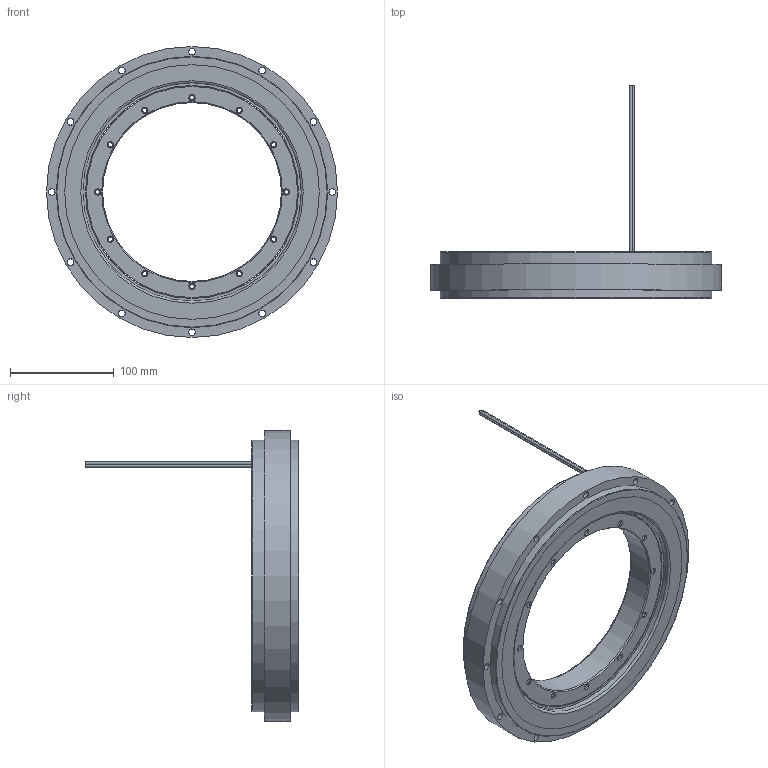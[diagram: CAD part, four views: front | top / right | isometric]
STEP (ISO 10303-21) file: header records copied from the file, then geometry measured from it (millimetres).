
FILE_DESCRIPTION(('STEP AP214'), '1');
FILE_NAME('楋樏襝鍱睯蜬蠈錪', '', ('UNSPECIFIED'), ('UNSPECIFIED'), 'C3D Converter', 'C3D Toolkit', '');
FILE_SCHEMA(('AUTOMOTIVE_DESIGN { 1 0 10303 214 3 1 1}'));
Length unit declared in the file: millimetre
Products named in the file (3): -06; МАНП.684252.020-30; МАНП.684222.023-30
Assembly tree (2 placements, depth 2):
  -06
    МАНП.684252.020-30
    МАНП.684222.023-30
Bounding box: 280 x 205 x 280 mm (x, y, z)
Volume: 1269544.3 mm3; surface area: 186405.3 mm2
Topology: 5 solids, 5 shells, 86 faces, 177 edges, 107 vertices
Faces by surface type: cylinder 37, cone 26, plane 16, torus 7
Full cylindrical faces by diameter (mm): 2.6 x3, 4.134 x12, 6.4 x12, 172 x1, 203.5 x1, 205 x1, 210 x2, 245 x2, 261 x2, 280 x1
Entity records: 2902 total; most frequent: DIRECTION 392, CARTESIAN_POINT 303, EDGE_LOOP 214, ORIENTED_EDGE 214, AXIS2_PLACEMENT_3D 196, FACE_OUTER_BOUND 140, EDGE_CURVE 107, VERTEX_POINT 107
